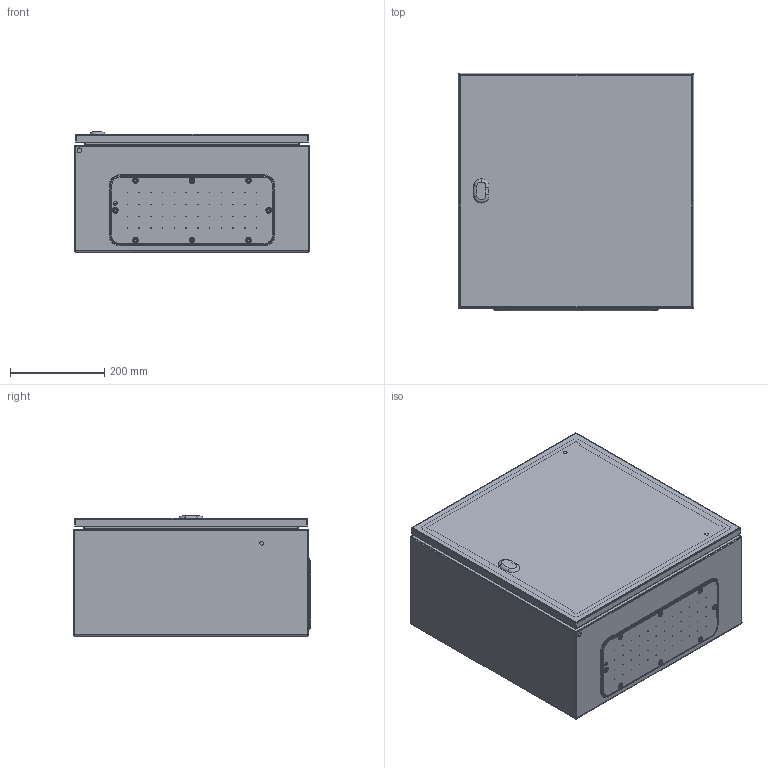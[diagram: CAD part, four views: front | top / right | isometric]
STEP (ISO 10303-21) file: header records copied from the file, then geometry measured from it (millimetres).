
FILE_DESCRIPTION (( 'STEP AP203' ), '1' );
FILE_NAME ('0500x0500x0250 dx.step', '2021-09-07T06:40:59', ( '' ), ( '' ), 'SwSTEP 2.0', 'SolidWorks 2021', '' );
FILE_SCHEMA (( 'CONFIG_CONTROL_DESIGN' ));
Length unit declared in the file: millimetre
Products named in the file (7): AR_ECOR_Piastra_11; AR_ECOR_involucro_0500x0500x0250; 0500x0500x0250 dx; AR_ECOR_flangia IC_04; AR_ECOR_porta_singola_0500x0500; AR_ECOR_montaggio_porta_singola_0500x0500; AR_ECOR_chiusura_std_STD
Assembly tree (6 placements, depth 3):
  0500x0500x0250 dx
    AR_ECOR_involucro_0500x0500x0250
    AR_ECOR_montaggio_porta_singola_0500x0500
      AR_ECOR_porta_singola_0500x0500
      AR_ECOR_chiusura_std_STD
    AR_ECOR_flangia IC_04
    AR_ECOR_Piastra_11
Bounding box: 500 x 504 x 255 mm (x, y, z)
Volume: 2163718.2 mm3; surface area: 2610517.2 mm2
Topology: 5 solids, 5 shells, 724 faces, 1767 edges, 1110 vertices
Faces by surface type: cylinder 370, plane 209, cone 60, torus 41, bspline 28, sphere 16
Entity records: 23152 total; most frequent: CARTESIAN_POINT 4802, DIRECTION 3938, ORIENTED_EDGE 3494, EDGE_CURVE 1747, AXIS2_PLACEMENT_3D 1581, VERTEX_POINT 1110, EDGE_LOOP 945, CIRCLE 875
